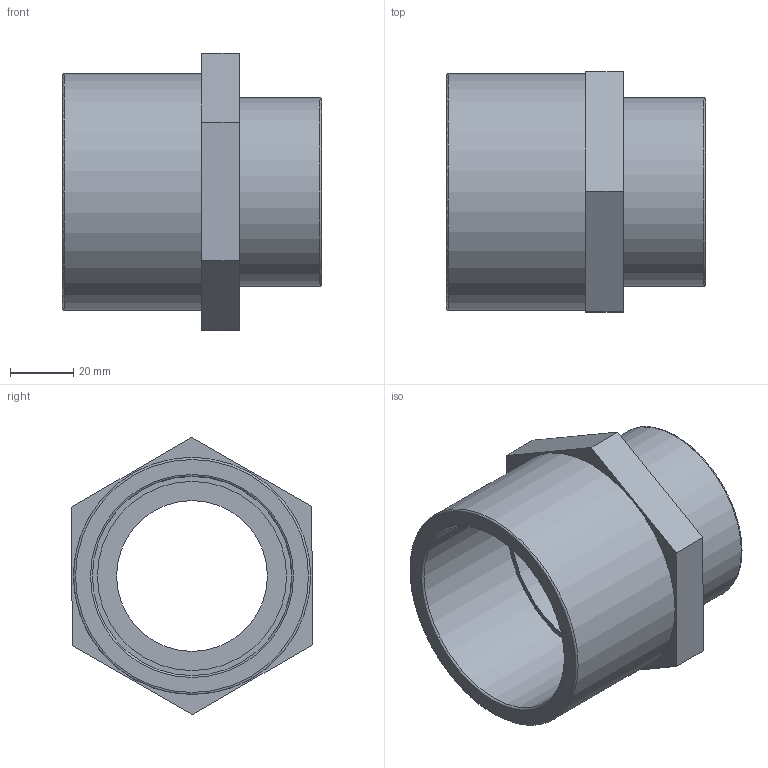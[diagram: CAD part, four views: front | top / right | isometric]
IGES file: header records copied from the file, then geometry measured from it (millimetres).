
Global section: file name: 052102063020.ipt; native system: Autodesk Inventor 2015; preprocessor: unknown; author: KIM; date: 20171207.165403; units: millimetre
Bounding box: 82 x 76.16 x 87.76 mm (x, y, z)
Volume: 116717 mm3; surface area: 39221.4 mm2
Topology: 1 solids, 1 shells, 21 faces, 55 edges, 40 vertices
Faces by surface type: plane 12, revolution 7, cylinder 2
Full cylindrical faces by diameter (mm): 59.614 x1, 75 x1
